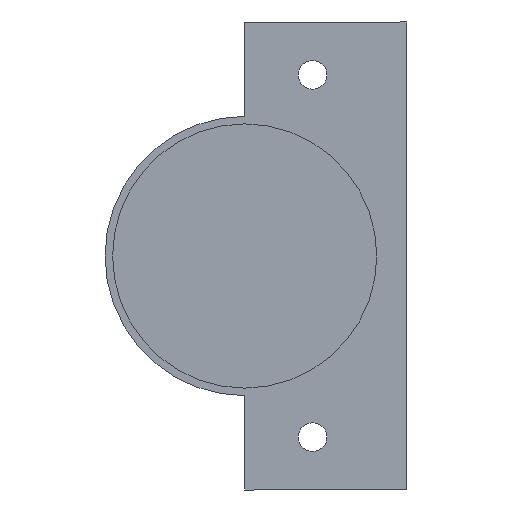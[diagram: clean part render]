
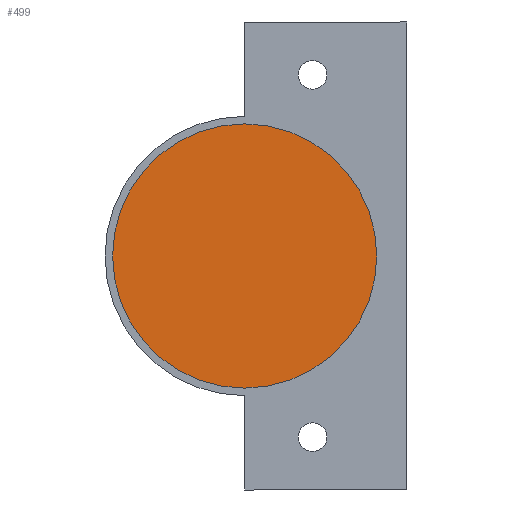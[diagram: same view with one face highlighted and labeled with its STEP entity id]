
A CAD part, front view. The second image highlights one B-rep face of the part: STEP entity #499.
In plain terms, the highlighted planar face has unit normal (0, -1, 0).
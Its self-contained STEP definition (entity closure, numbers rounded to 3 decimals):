
#178 = ORIENTED_EDGE ( 'NONE', *, *, #907, .T. ) ;
#179 = ORIENTED_EDGE ( 'NONE', *, *, #379, .T. ) ;
#198 = AXIS2_PLACEMENT_3D ( 'NONE', #1094, #1097, #1098 ) ;
#223 = AXIS2_PLACEMENT_3D ( 'NONE', #1432, #1433, #1435 ) ;
#269 = AXIS2_PLACEMENT_3D ( 'NONE', #1427, #1430, #1431 ) ;
#287 = CARTESIAN_POINT ( 'NONE',  ( 23., -12.6, 0. ) ) ;
#288 = CARTESIAN_POINT ( 'NONE',  ( -12., -12.6, 0. ) ) ;
#379 = EDGE_CURVE ( 'NONE', #960, #961, #700, .T. ) ;
#499 = ADVANCED_FACE ( 'NONE', ( #894 ), #1428, .T. ) ;
#610 = EDGE_LOOP ( 'NONE', ( #178, #179 ) ) ;
#700 = CIRCLE ( 'NONE', #198, 17.5 ) ;
#894 = FACE_OUTER_BOUND ( 'NONE', #610, .T. ) ;
#896 = CIRCLE ( 'NONE', #223, 17.5 ) ;
#907 = EDGE_CURVE ( 'NONE', #961, #960, #896, .T. ) ;
#960 = VERTEX_POINT ( 'NONE', #287 ) ;
#961 = VERTEX_POINT ( 'NONE', #288 ) ;
#1094 = CARTESIAN_POINT ( 'NONE',  ( 5.5, -12.6, 0. ) ) ;
#1097 = DIRECTION ( 'NONE',  ( 0., -1., 0. ) ) ;
#1098 = DIRECTION ( 'NONE',  ( 1., 0., 0. ) ) ;
#1427 = CARTESIAN_POINT ( 'NONE',  ( 5.5, -12.6, 0. ) ) ;
#1428 = PLANE ( 'NONE',  #269 ) ;
#1430 = DIRECTION ( 'NONE',  ( 0., -1., 0. ) ) ;
#1431 = DIRECTION ( 'NONE',  ( 1., 0., 0. ) ) ;
#1432 = CARTESIAN_POINT ( 'NONE',  ( 5.5, -12.6, 0. ) ) ;
#1433 = DIRECTION ( 'NONE',  ( 0., -1., 0. ) ) ;
#1435 = DIRECTION ( 'NONE',  ( 1., 0., 0. ) ) ;
